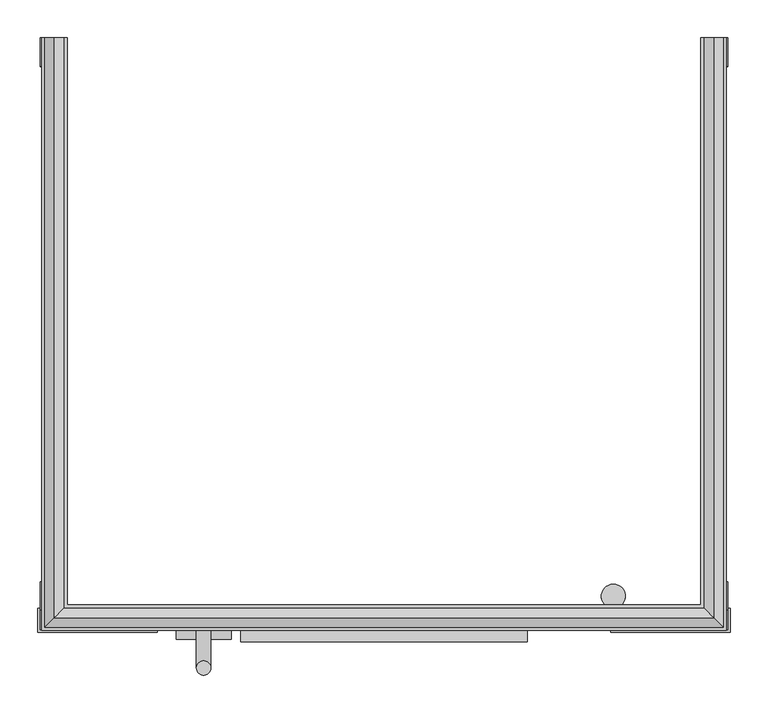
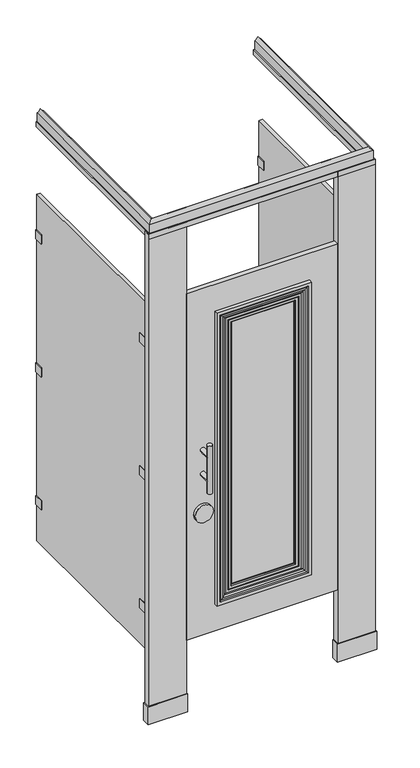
"""IFC4 building model written with IfcOpenShell, lengths in millimetres: proxy geometry, Toilet-Partition_Ironwood-Mfg_Compact-Laminate : Compact Laminate - Headrail Braced - Molding Door."""

from ifc_helpers import new_model, si_unit, point, frame, frame_2d, origin, origin_with_axes, place, context, project, spatial, polyline, circle_curve, ellipse_curve, trimmed, segment, composite_curve, outline, extrude, source, transform, mapped, element, save
from ifc_brep_helpers import plane_surface, cylinder_surface, revolved_surface, advanced_brep


def specialty_equipment_bc4b3a95(model_context):
    return source(origin(), model_context, "Body", "SolidModel", [
        extrude(outline(polyline([(701.675, -758.825), (701.675, -790.575), (542.925, -790.575), (542.925, -758.825), (701.675, -758.825)])), origin_with_axes(), (0.0, 0.0, 1.0), 76.2),
        extrude(outline(polyline([(698.5, -762.0), (698.5, -787.4), (546.1, -787.4), (546.1, -762.0), (698.5, -762.0)])), origin_with_axes(), (0.0, 0.0, 1.0), 2082.8),
        extrude(outline(polyline([(-219.075, -758.825), (-60.325, -758.825), (-60.325, -790.575), (-219.075, -790.575), (-219.075, -758.825)])), origin_with_axes(), (0.0, 0.0, 1.0), 76.2),
        extrude(outline(polyline([(-215.9, -762.0), (-63.5, -762.0), (-63.5, -787.4), (-215.9, -787.4), (-215.9, -762.0)])), origin_with_axes(), (0.0, 0.0, 1.0), 2082.8),
        extrude(outline(polyline([(546.1, -787.4), (-63.5, -787.4), (-63.5, -768.35), (546.1, -768.35), (546.1, -787.4)])), frame((0.0, 0.0, 304.8), z_axis=(0.0, 0.0, 1.0), x_axis=(1.0, 0.0, 0.0)), (0.0, 0.0, 1.0), 1473.2),
        extrude(outline(composite_curve([segment(trimmed(circle_curve(frame_2d((827.0875, 1.5875)), 36.5125), [point((827.0875, -34.925))], [point((827.0875, 38.1))], False, "CARTESIAN"), True, "CONTINUOUS"), segment(trimmed(circle_curve(frame_2d((827.0875, 1.5875)), 36.5125), [point((827.0875, 38.1))], [point((827.0875, -34.925))], False, "CARTESIAN"), True, "CONTINUOUS")], self_intersect=False)), frame((0.0, -800.1, 0.0), z_axis=(0.0, 1.0, 0.0), x_axis=(0.0, 0.0, 1.0)), (0.0, 0.0, 1.0), 12.7),
        advanced_brep(
        [(-7.9375, -787.4, 1092.2), (11.1125, -787.4, 1092.2), (-7.9375, -787.4, 990.6), (11.1125, -787.4, 990.6), (11.1125, -838.2, 1092.2), (-7.9375, -838.2, 1092.2), (11.1125, -838.2, 990.6), (-7.9375, -838.2, 990.6), (-7.9375, -838.2, 1143.0), (11.1125, -838.2, 1143.0), (-7.9375, -838.2, 939.8), (11.1125, -838.2, 939.8)],
        [
            (0, 1, circle_curve(frame((1.5875, -787.4, 1092.2), z_axis=(0.0, 1.0, 0.0), x_axis=(1.0, 0.0, 0.0)), 9.525)),
            (1, 0, circle_curve(frame((1.5875, -787.4, 1092.2), z_axis=(0.0, 1.0, 0.0), x_axis=(1.0, 0.0, 0.0)), 9.525)),
            (2, 3, circle_curve(frame((1.5875, -787.4, 990.6), z_axis=(0.0, 1.0, 0.0), x_axis=(1.0, 0.0, 0.0)), 9.525)),
            (3, 2, circle_curve(frame((1.5875, -787.4, 990.6), z_axis=(0.0, 1.0, 0.0), x_axis=(1.0, 0.0, 0.0)), 9.525)),
            (1, 4),
            (4, 5, ellipse_curve(frame((1.5875, -838.2, 1092.2), z_axis=(0.0, 0.7071067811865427, 0.7071067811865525), x_axis=(0.0, -0.7071067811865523, 0.7071067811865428)), 13.4703842, 9.525)),
            (5, 0),
            (5, 4, ellipse_curve(frame((1.5875, -838.2, 1092.2), z_axis=(0.0, 0.7071067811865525, -0.7071067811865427), x_axis=(0.0, -0.7071067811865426, -0.7071067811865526)), 13.4703842, 9.525)),
            (3, 6),
            (6, 7, ellipse_curve(frame((1.5875, -838.2, 990.6), z_axis=(0.0, 0.7071067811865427, 0.7071067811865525), x_axis=(0.0, -0.7071067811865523, 0.7071067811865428)), 13.4703842, 9.525)),
            (7, 2),
            (7, 6, ellipse_curve(frame((1.5875, -838.2, 990.6), z_axis=(0.0, 0.7071067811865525, -0.7071067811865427), x_axis=(0.0, -0.7071067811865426, -0.7071067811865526)), 13.4703842, 9.525)),
            (8, 9, circle_curve(frame((1.5875, -838.2, 1143.0), z_axis=(0.0, 0.0, 1.0), x_axis=(1.0, 0.0, 0.0)), 9.525)),
            (9, 8, circle_curve(frame((1.5875, -838.2, 1143.0), z_axis=(0.0, 0.0, 1.0), x_axis=(1.0, 0.0, 0.0)), 9.525)),
            (10, 11, circle_curve(frame((1.5875, -838.2, 939.8), z_axis=(0.0, 0.0, -1.0), x_axis=(1.0, 0.0, 0.0)), 9.525)),
            (11, 10, circle_curve(frame((1.5875, -838.2, 939.8), z_axis=(0.0, 0.0, -1.0), x_axis=(1.0, 0.0, 0.0)), 9.525)),
            (8, 5),
            (5, 7),
            (7, 10),
            (11, 6),
            (6, 4),
            (4, 9),
        ],
        [
            plane_surface(frame((11.1125, -787.4, 1092.2), z_axis=(0.0, 1.0, 0.0), x_axis=(0.0, 0.0, -1.0))),
            cylinder_surface(frame((1.5875, -787.4, 1092.2), z_axis=(0.0, -1.0, 0.0), x_axis=(1.0, 0.0, 0.0)), 9.525),
            cylinder_surface(frame((1.5875, -787.4, 990.6), z_axis=(0.0, -1.0, 0.0), x_axis=(1.0, 0.0, 0.0)), 9.525),
            plane_surface(frame((11.1125, -838.2, 1143.0), z_axis=(0.0, 0.0, 1.0), x_axis=(0.0, 1.0, 0.0))),
            plane_surface(frame((11.1125, -838.2, 939.8), z_axis=(0.0, 0.0, -1.0), x_axis=(0.0, -1.0, 0.0))),
            cylinder_surface(frame((1.5875, -838.2, 939.8), z_axis=(0.0, 0.0, 1.0), x_axis=(1.0, 0.0, 0.0)), 9.525),
        ],
        [
            (0, [[1, 2]]),
            (0, [[3, 4]]),
            (1, [[-2, 5, 6, 7]]),
            (1, [[-1, -7, 8, -5]]),
            (2, [[-4, 9, 10, 11]]),
            (2, [[-3, -11, 12, -9]]),
            (3, [[13, 14]]),
            (4, [[15, 16]]),
            (5, [[-13, 17, 18, 19, -16, 20, 21, 22]]),
            (5, [[-14, -22, -8, -17]]),
            (5, [[-15, -19, -10, -20]]),
            (5, [[-18, -6, -21, -12]]),
        ],
    ),
        advanced_brep(
        [(414.5195881, -788.6573117, 1646.4195881), (415.7768998, -787.4, 1647.6768998), (415.7768998, -787.4, 435.1231002), (414.5195881, -788.6573117, 436.3804119), (382.8493103, -787.3167663, 1614.7493103), (384.1898558, -788.6573117, 1616.0898558), (384.1898558, -788.6573117, 466.7101442), (382.8493103, -787.3167663, 468.0506897), (368.3, -792.3903203, 1600.2), (368.3, -787.3167663, 1600.2), (368.3, -787.3167663, 482.6), (368.3, -792.3903203, 482.6), (371.8761431, -795.8339988, 1603.7761431), (371.8761431, -795.8339988, 479.0238569), (383.7857899, -797.3276278, 1615.6857899), (381.5195942, -795.8339988, 1613.4195942), (381.5195942, -795.8339988, 469.3804058), (383.7857899, -797.3276278, 467.1142101), (399.1420677, -798.1943603, 1631.0420677), (393.8806616, -797.3276278, 1625.7806616), (393.8806616, -797.3276278, 457.0193384), (399.1420677, -798.1943603, 451.7579323), (406.241729, -800.7784257, 1638.141729), (406.241729, -800.7784257, 444.658271), (415.3065117, -800.469399, 1647.2065117), (415.3065117, -800.469399, 435.5934883), (419.1, -803.275, 1651.0), (419.1, -803.275, 431.8), (431.8, -787.4, 1663.7), (431.8, -803.275, 1663.7), (431.8, -803.275, 419.1), (431.8, -787.4, 419.1), (66.8231002, -787.4, 435.1231002), (68.0804119, -788.6573117, 436.3804119), (98.4101442, -788.6573117, 466.7101442), (99.7506897, -787.3167663, 468.0506897), (114.3, -787.3167663, 482.6), (114.3, -792.3903203, 482.6), (110.7238569, -795.8339988, 479.0238569), (101.0804058, -795.8339988, 469.3804058), (98.8142101, -797.3276278, 467.1142101), (88.7193384, -797.3276278, 457.0193384), (83.4579323, -798.1943603, 451.7579323), (76.358271, -800.7784257, 444.658271), (67.2934883, -800.469399, 435.5934883), (63.5, -803.275, 431.8), (50.8, -803.275, 419.1), (50.8, -787.4, 419.1), (66.8231002, -787.4, 1647.6768998), (68.0804119, -788.6573117, 1646.4195881), (98.4101442, -788.6573117, 1616.0898558), (99.7506897, -787.3167663, 1614.7493103), (114.3, -787.3167663, 1600.2), (114.3, -792.3903203, 1600.2), (110.7238569, -795.8339988, 1603.7761431), (101.0804058, -795.8339988, 1613.4195942), (98.8142101, -797.3276278, 1615.6857899), (88.7193384, -797.3276278, 1625.7806616), (83.4579323, -798.1943603, 1631.0420677), (76.358271, -800.7784257, 1638.141729), (67.2934883, -800.469399, 1647.2065117), (63.5, -803.275, 1651.0), (50.8, -803.275, 1663.7), (50.8, -787.4, 1663.7)],
        [
            (0, 1),
            (1, 2),
            (2, 3),
            (3, 0),
            (4, 5),
            (5, 6),
            (6, 7),
            (7, 4),
            (8, 9),
            (9, 10),
            (10, 11),
            (11, 8),
            (12, 8, ellipse_curve(frame((371.8761431, -792.2553079, 1603.7761431), z_axis=(0.7071067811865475, 0.0, -0.7071067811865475), x_axis=(0.7071067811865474, 0.0, 0.7071067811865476)), 5.0610331, 3.5786908)),
            (11, 13, ellipse_curve(frame((371.8761431, -792.2553079, 479.0238569), z_axis=(0.7071067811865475, 0.0, 0.7071067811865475), x_axis=(-0.7071067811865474, 0.0, 0.7071067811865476)), 5.0610331, 3.5786908)),
            (13, 12),
            (14, 15, ellipse_curve(frame((383.7857899, -794.8616303, 1615.6857899), z_axis=(0.7071067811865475, 0.0, -0.7071067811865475), x_axis=(0.7071067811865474, 0.0, 0.7071067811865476)), 3.487447, 2.4659974)),
            (15, 16),
            (16, 17, ellipse_curve(frame((383.7857899, -794.8616303, 467.1142101), z_axis=(0.7071067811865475, 0.0, 0.7071067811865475), x_axis=(-0.7071067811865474, 0.0, 0.7071067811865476)), 3.487447, 2.4659974)),
            (17, 14),
            (18, 19, ellipse_curve(frame((394.2058089, -811.7566197, 1626.1058089), z_axis=(-0.7071067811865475, 0.0, 0.7071067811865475), x_axis=(-0.7071067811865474, 0.0, -0.7071067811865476)), 20.4108564, 14.432655)),
            (19, 20),
            (20, 21, ellipse_curve(frame((394.2058089, -811.7566197, 456.6941911), z_axis=(-0.7071067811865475, 0.0, -0.7071067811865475), x_axis=(0.7071067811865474, 0.0, -0.7071067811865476)), 20.4108564, 14.432655)),
            (21, 18),
            (22, 18),
            (21, 23),
            (23, 22),
            (24, 22, ellipse_curve(frame((410.3907719, -789.379024, 1642.2907719), z_axis=(0.7071067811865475, 0.0, -0.7071067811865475), x_axis=(0.7071067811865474, 0.0, 0.7071067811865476)), 17.1558104, 12.1309899)),
            (23, 25, ellipse_curve(frame((410.3907719, -789.379024, 440.5092281), z_axis=(0.7071067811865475, 0.0, 0.7071067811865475), x_axis=(-0.7071067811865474, 0.0, 0.7071067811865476)), 17.1558104, 12.1309899)),
            (25, 24),
            (26, 24, ellipse_curve(frame((419.1, -799.307588, 1651.0), z_axis=(0.7071067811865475, 0.0, -0.7071067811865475), x_axis=(0.7071067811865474, 0.0, 0.7071067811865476)), 5.6107679, 3.967412)),
            (25, 27, ellipse_curve(frame((419.1, -799.307588, 431.8), z_axis=(0.7071067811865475, 0.0, 0.7071067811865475), x_axis=(-0.7071067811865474, 0.0, 0.7071067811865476)), 5.6107679, 3.967412)),
            (27, 26),
            (28, 29),
            (29, 30),
            (30, 31),
            (31, 28),
            (2, 32),
            (32, 33),
            (33, 3),
            (6, 34),
            (34, 35),
            (35, 7),
            (10, 36),
            (36, 37),
            (37, 11),
            (37, 38, ellipse_curve(frame((110.7238569, -792.2553079, 479.0238569), z_axis=(0.7071067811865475, 0.0, -0.7071067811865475), x_axis=(0.7071067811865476, 0.0, 0.7071067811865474)), 5.0610331, 3.5786908)),
            (38, 13),
            (16, 39),
            (39, 40, ellipse_curve(frame((98.8142101, -794.8616303, 467.1142101), z_axis=(0.7071067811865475, 0.0, -0.7071067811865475), x_axis=(0.7071067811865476, 0.0, 0.7071067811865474)), 3.487447, 2.4659974)),
            (40, 17),
            (20, 41),
            (41, 42, ellipse_curve(frame((88.3941911, -811.7566197, 456.6941911), z_axis=(-0.7071067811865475, 0.0, 0.7071067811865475), x_axis=(-0.7071067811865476, 0.0, -0.7071067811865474)), 20.4108564, 14.432655)),
            (42, 21),
            (42, 43),
            (43, 23),
            (43, 44, ellipse_curve(frame((72.2092281, -789.379024, 440.5092281), z_axis=(0.7071067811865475, 0.0, -0.7071067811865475), x_axis=(0.7071067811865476, 0.0, 0.7071067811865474)), 17.1558104, 12.1309899)),
            (44, 25),
            (44, 45, ellipse_curve(frame((63.5, -799.307588, 431.8), z_axis=(0.7071067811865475, 0.0, -0.7071067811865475), x_axis=(0.7071067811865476, 0.0, 0.7071067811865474)), 5.6107679, 3.967412)),
            (45, 27),
            (30, 46),
            (46, 47),
            (47, 31),
            (32, 48),
            (48, 49),
            (49, 33),
            (34, 50),
            (50, 51),
            (51, 35),
            (36, 52),
            (52, 53),
            (53, 37),
            (53, 54, ellipse_curve(frame((110.7238569, -792.2553079, 1603.7761431), z_axis=(-0.7071067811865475, 0.0, -0.7071067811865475), x_axis=(0.7071067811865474, 0.0, -0.7071067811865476)), 5.0610331, 3.5786908)),
            (54, 38),
            (39, 55),
            (55, 56, ellipse_curve(frame((98.8142101, -794.8616303, 1615.6857899), z_axis=(-0.7071067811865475, 0.0, -0.7071067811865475), x_axis=(0.7071067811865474, 0.0, -0.7071067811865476)), 3.487447, 2.4659974)),
            (56, 40),
            (41, 57),
            (57, 58, ellipse_curve(frame((88.3941911, -811.7566197, 1626.1058089), z_axis=(0.7071067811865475, 0.0, 0.7071067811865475), x_axis=(-0.7071067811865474, 0.0, 0.7071067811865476)), 20.4108564, 14.432655)),
            (58, 42),
            (58, 59),
            (59, 43),
            (59, 60, ellipse_curve(frame((72.2092281, -789.379024, 1642.2907719), z_axis=(-0.7071067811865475, 0.0, -0.7071067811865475), x_axis=(0.7071067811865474, 0.0, -0.7071067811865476)), 17.1558104, 12.1309899)),
            (60, 44),
            (60, 61, ellipse_curve(frame((63.5, -799.307588, 1651.0), z_axis=(-0.7071067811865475, 0.0, -0.7071067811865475), x_axis=(0.7071067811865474, 0.0, -0.7071067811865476)), 5.6107679, 3.967412)),
            (61, 45),
            (46, 62),
            (62, 63),
            (63, 47),
            (63, 28),
            (1, 48),
            (0, 49),
            (5, 50),
            (4, 51),
            (9, 52),
            (8, 53),
            (12, 54),
            (15, 55),
            (14, 56),
            (19, 57),
            (18, 58),
            (22, 59),
            (24, 60),
            (26, 61),
            (29, 62),
        ],
        [
            plane_surface(frame((415.7768998, -787.4, 1647.6768998), z_axis=(-0.7071067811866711, 0.7071067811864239, 0.0), x_axis=(0.0, 0.0, -1.0))),
            plane_surface(frame((384.1898558, -788.6573117, 1616.0898558), z_axis=(0.7071067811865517, 0.7071067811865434, 0.0), x_axis=(0.0, 0.0, -1.0))),
            plane_surface(frame((368.3, -787.3167663, 1600.2), z_axis=(-1.0, 0.0, 0.0), x_axis=(0.0, 0.0, -1.0))),
            cylinder_surface(frame((371.8761431, -792.2553079, 1663.7), z_axis=(0.0, 0.0, 1.0), x_axis=(1.0, 0.0, 0.0)), 3.5786908),
            cylinder_surface(frame((383.7857899, -794.8616303, 1663.7), z_axis=(0.0, 0.0, 1.0), x_axis=(1.0, 0.0, 0.0)), 2.4659974),
            revolved_surface(polyline([(408.63846390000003, -811.7566197, 442.2615361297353), (408.63846390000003, -811.7566197, 1640.5384638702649)]), (394.2058089, -811.7566197, 1663.7), (0.0, 0.0, -1.0)),
            plane_surface(frame((399.1420677, -798.1943603, 1631.0420677), z_axis=(-0.34202014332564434, -0.9396926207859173, 0.0), x_axis=(0.0, 0.0, -1.0))),
            cylinder_surface(frame((410.3907719, -789.379024, 1663.7), z_axis=(0.0, 0.0, 1.0), x_axis=(1.0, 0.0, 0.0)), 12.1309899),
            cylinder_surface(frame((419.1, -799.307588, 1663.7), z_axis=(0.0, 0.0, 1.0), x_axis=(1.0, 0.0, 0.0)), 3.967412),
            plane_surface(frame((431.8, -803.275, 1663.7), z_axis=(1.0, 0.0, 0.0), x_axis=(0.0, 0.0, -1.0))),
            plane_surface(frame((415.7768998, -787.4, 435.1231002), z_axis=(0.0, 0.7071067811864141, 0.7071067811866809), x_axis=(-1.0, 0.0, 0.0))),
            plane_surface(frame((384.1898558, -788.6573117, 466.7101442), z_axis=(0.0, 0.7071067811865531, -0.7071067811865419), x_axis=(-1.0, 0.0, 0.0))),
            plane_surface(frame((368.3, -787.3167663, 482.6), z_axis=(0.0, 0.0, 1.0), x_axis=(-1.0, 0.0, 0.0))),
            cylinder_surface(frame((431.8, -792.2553079, 479.0238569), z_axis=(1.0, 0.0, 0.0), x_axis=(0.0, 0.0, -1.0)), 3.5786908),
            cylinder_surface(frame((431.8, -794.8616303, 467.1142101), z_axis=(1.0, 0.0, 0.0), x_axis=(0.0, 0.0, -1.0)), 2.4659974),
            revolved_surface(polyline([(73.96153612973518, -811.7566197, 442.2615361), (408.63846387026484, -811.7566197, 442.2615361)]), (431.8, -811.7566197, 456.6941911), (-1.0, 0.0, 0.0)),
            plane_surface(frame((399.1420677, -798.1943603, 451.7579323), z_axis=(0.0, -0.9396926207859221, 0.34202014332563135), x_axis=(-1.0, 0.0, 0.0))),
            cylinder_surface(frame((431.8, -789.379024, 440.5092281), z_axis=(1.0, 0.0, 0.0), x_axis=(0.0, 0.0, -1.0)), 12.1309899),
            cylinder_surface(frame((431.8, -799.307588, 431.8), z_axis=(1.0, 0.0, 0.0), x_axis=(0.0, 0.0, -1.0)), 3.967412),
            plane_surface(frame((431.8, -803.275, 419.1), z_axis=(0.0, 0.0, -1.0), x_axis=(-1.0, 0.0, 0.0))),
            plane_surface(frame((66.8231002, -787.4, 435.1231002), z_axis=(0.7071067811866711, 0.7071067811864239, 0.0), x_axis=(0.0, 0.0, 1.0))),
            plane_surface(frame((98.4101442, -788.6573117, 466.7101442), z_axis=(-0.7071067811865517, 0.7071067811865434, 0.0), x_axis=(0.0, 0.0, 1.0))),
            plane_surface(frame((114.3, -787.3167663, 482.6), z_axis=(1.0, 0.0, 0.0), x_axis=(0.0, 0.0, 1.0))),
            cylinder_surface(frame((110.7238569, -792.2553079, 419.1), z_axis=(0.0, 0.0, -1.0), x_axis=(-1.0, 0.0, 0.0)), 3.5786908),
            cylinder_surface(frame((98.8142101, -794.8616303, 419.1), z_axis=(0.0, 0.0, -1.0), x_axis=(-1.0, 0.0, 0.0)), 2.4659974),
            revolved_surface(polyline([(73.9615361, -811.7566197, 1640.5384638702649), (73.9615361, -811.7566197, 442.2615361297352)]), (88.3941911, -811.7566197, 419.1), (0.0, 0.0, 1.0)),
            plane_surface(frame((83.4579323, -798.1943603, 451.7579323), z_axis=(0.34202014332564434, -0.9396926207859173, 0.0), x_axis=(0.0, 0.0, 1.0))),
            cylinder_surface(frame((72.2092281, -789.379024, 419.1), z_axis=(0.0, 0.0, -1.0), x_axis=(-1.0, 0.0, 0.0)), 12.1309899),
            cylinder_surface(frame((63.5, -799.307588, 419.1), z_axis=(0.0, 0.0, -1.0), x_axis=(-1.0, 0.0, 0.0)), 3.967412),
            plane_surface(frame((50.8, -803.275, 419.1), z_axis=(-1.0, 0.0, 0.0), x_axis=(0.0, 0.0, 1.0))),
            plane_surface(frame((50.8, -787.4, 1663.7), z_axis=(0.0, 1.0, 0.0), x_axis=(1.0, 0.0, 0.0))),
            plane_surface(frame((66.8231002, -787.4, 1647.6768998), z_axis=(0.0, 0.7071067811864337, -0.7071067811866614), x_axis=(1.0, 0.0, 0.0))),
            plane_surface(frame((68.0804119, -788.6573117, 1646.4195881), z_axis=(0.0, 1.0, 0.0), x_axis=(1.0, 0.0, 0.0))),
            plane_surface(frame((98.4101442, -788.6573117, 1616.0898558), z_axis=(0.0, 0.7071067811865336, 0.7071067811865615), x_axis=(1.0, 0.0, 0.0))),
            plane_surface(frame((99.7506897, -787.3167663, 1614.7493103), z_axis=(0.0, 1.0, 0.0), x_axis=(1.0, 0.0, 0.0))),
            plane_surface(frame((114.3, -787.3167663, 1600.2), z_axis=(0.0, 0.0, -1.0), x_axis=(1.0, 0.0, 0.0))),
            cylinder_surface(frame((50.8, -792.2553079, 1603.7761431), z_axis=(-1.0, 0.0, 0.0), x_axis=(0.0, 0.0, 1.0)), 3.5786908),
            plane_surface(frame((110.7238569, -795.8339988, 1603.7761431), z_axis=(0.0, -1.0, 0.0), x_axis=(1.0, 0.0, 0.0))),
            cylinder_surface(frame((50.8, -794.8616303, 1615.6857899), z_axis=(-1.0, 0.0, 0.0), x_axis=(0.0, 0.0, 1.0)), 2.4659974),
            plane_surface(frame((98.8142101, -797.3276278, 1615.6857899), z_axis=(0.0, -1.0, 0.0), x_axis=(1.0, 0.0, 0.0))),
            revolved_surface(polyline([(408.63846387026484, -811.7566197, 1640.5384639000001), (73.96153612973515, -811.7566197, 1640.5384639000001)]), (50.8, -811.7566197, 1626.1058089), (1.0, 0.0, 0.0)),
            plane_surface(frame((83.4579323, -798.1943603, 1631.0420677), z_axis=(0.0, -0.9396926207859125, -0.34202014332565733), x_axis=(1.0, 0.0, 0.0))),
            cylinder_surface(frame((50.8, -789.379024, 1642.2907719), z_axis=(-1.0, 0.0, 0.0), x_axis=(0.0, 0.0, 1.0)), 12.1309899),
            cylinder_surface(frame((50.8, -799.307588, 1651.0), z_axis=(-1.0, 0.0, 0.0), x_axis=(0.0, 0.0, 1.0)), 3.967412),
            plane_surface(frame((63.5, -803.275, 1651.0), z_axis=(0.0, -1.0, 0.0), x_axis=(1.0, 0.0, 0.0))),
            plane_surface(frame((50.8, -803.275, 1663.7), z_axis=(0.0, 0.0, 1.0), x_axis=(1.0, 0.0, 0.0))),
        ],
        [
            (0, [[1, 2, 3, 4]]),
            (1, [[5, 6, 7, 8]]),
            (2, [[9, 10, 11, 12]]),
            (3, [[13, -12, 14, 15]]),
            (4, [[16, 17, 18, 19]]),
            (5, [[20, 21, 22, 23]]),
            (6, [[24, -23, 25, 26]]),
            (7, [[27, -26, 28, 29]]),
            (8, [[30, -29, 31, 32]]),
            (9, [[33, 34, 35, 36]]),
            (10, [[-3, 37, 38, 39]]),
            (11, [[-7, 40, 41, 42]]),
            (12, [[-11, 43, 44, 45]]),
            (13, [[-14, -45, 46, 47]]),
            (14, [[-18, 48, 49, 50]]),
            (15, [[-22, 51, 52, 53]]),
            (16, [[-25, -53, 54, 55]]),
            (17, [[-28, -55, 56, 57]]),
            (18, [[-31, -57, 58, 59]]),
            (19, [[-35, 60, 61, 62]]),
            (20, [[-38, 63, 64, 65]]),
            (21, [[-41, 66, 67, 68]]),
            (22, [[-44, 69, 70, 71]]),
            (23, [[-46, -71, 72, 73]]),
            (24, [[-49, 74, 75, 76]]),
            (25, [[-52, 77, 78, 79]]),
            (26, [[-54, -79, 80, 81]]),
            (27, [[-56, -81, 82, 83]]),
            (28, [[-58, -83, 84, 85]]),
            (29, [[-61, 86, 87, 88]]),
            (30, [[-62, -88, 89, -36], [90, -63, -37, -2]]),
            (31, [[-64, -90, -1, 91]]),
            (32, [[-39, -65, -91, -4], [92, -66, -40, -6]]),
            (33, [[-67, -92, -5, 93]]),
            (34, [[-42, -68, -93, -8], [94, -69, -43, -10]]),
            (35, [[-70, -94, -9, 95]]),
            (36, [[-72, -95, -13, 96]]),
            (37, [[97, -74, -48, -17], [-47, -73, -96, -15]]),
            (38, [[-75, -97, -16, 98]]),
            (39, [[99, -77, -51, -21], [-50, -76, -98, -19]]),
            (40, [[-78, -99, -20, 100]]),
            (41, [[-80, -100, -24, 101]]),
            (42, [[-82, -101, -27, 102]]),
            (43, [[-84, -102, -30, 103]]),
            (44, [[104, -86, -60, -34], [-59, -85, -103, -32]]),
            (45, [[-87, -104, -33, -89]]),
        ],
    ),
        extrude(outline(composite_curve([segment(polyline([(581.3737081, -762.0), (505.1737081, -762.0), (505.1737081, -758.825), (533.7487081, -758.825), (533.7487081, -752.9581331)]), True, "CONTINUOUS"), segment(trimmed(circle_curve(frame_2d((546.1, -742.8902139)), 15.9347861), [point((533.7487081, -752.9581331))], [point((558.4512919, -752.9581331))], False, "CARTESIAN"), True, "CONTINUOUS"), segment(polyline([(558.4512919, -752.9581331), (558.4512919, -758.825), (581.3737081, -758.825), (581.3737081, -762.0)]), True, "CONTINUOUS")], self_intersect=False)), frame((0.0, 0.0, 1574.8), z_axis=(0.0, 0.0, 1.0), x_axis=(1.0, 0.0, 0.0)), (0.0, 0.0, 1.0), 63.5),
        extrude(outline(composite_curve([segment(polyline([(581.3737081, -762.0), (505.1737081, -762.0), (505.1737081, -758.825), (533.7487081, -758.825), (533.7487081, -752.9581331)]), True, "CONTINUOUS"), segment(trimmed(circle_curve(frame_2d((546.1, -742.8902139)), 15.9347861), [point((533.7487081, -752.9581331))], [point((558.4512919, -752.9581331))], False, "CARTESIAN"), True, "CONTINUOUS"), segment(polyline([(558.4512919, -752.9581331), (558.4512919, -758.825), (581.3737081, -758.825), (581.3737081, -762.0)]), True, "CONTINUOUS")], self_intersect=False)), frame((0.0, 0.0, 1009.6500001), z_axis=(0.0, 0.0, 1.0), x_axis=(1.0, 0.0, 0.0)), (0.0, 0.0, 1.0), 63.5),
        extrude(outline(composite_curve([segment(polyline([(581.3737081, -762.0), (505.1737081, -762.0), (505.1737081, -758.825), (533.7487081, -758.825), (533.7487081, -752.9581331)]), True, "CONTINUOUS"), segment(trimmed(circle_curve(frame_2d((546.1, -742.8902139)), 15.9347861), [point((533.7487081, -752.9581331))], [point((558.4512919, -752.9581331))], False, "CARTESIAN"), True, "CONTINUOUS"), segment(polyline([(558.4512919, -752.9581331), (558.4512919, -758.825), (581.3737081, -758.825), (581.3737081, -762.0)]), True, "CONTINUOUS")], self_intersect=False)), frame((0.0, 0.0, 444.5), z_axis=(0.0, 0.0, 1.0), x_axis=(1.0, 0.0, 0.0)), (0.0, 0.0, 1.0), 63.5),
        extrude(outline(polyline([(682.498, -723.9), (682.498, -758.825), (695.198, -758.825), (695.198, -723.9), (698.373, -723.9), (698.373, -762.0), (679.323, -762.0), (679.323, -723.9), (682.498, -723.9)])), frame((0.0, 0.0, 1587.8188137), z_axis=(0.0, 0.0, 1.0), x_axis=(1.0, 0.0, 0.0)), (0.0, 0.0, 1.0), 38.1),
        extrude(outline(polyline([(682.498, -38.1), (679.323, -38.1), (679.323, 0.0), (698.373, 0.0), (698.373, -38.1), (695.198, -38.1), (695.198, -3.175), (682.498, -3.175), (682.498, -38.1)])), frame((0.0, 0.0, 1587.8188137), z_axis=(0.0, 0.0, 1.0), x_axis=(1.0, 0.0, 0.0)), (0.0, 0.0, 1.0), 38.1),
        extrude(outline(polyline([(682.498, -723.9), (682.498, -758.825), (695.198, -758.825), (695.198, -723.9), (698.373, -723.9), (698.373, -762.0), (679.323, -762.0), (679.323, -723.9), (682.498, -723.9)])), frame((0.0, 0.0, 1022.35), z_axis=(0.0, 0.0, 1.0), x_axis=(1.0, 0.0, 0.0)), (0.0, 0.0, 1.0), 38.1),
        extrude(outline(polyline([(682.498, -38.1), (679.323, -38.1), (679.323, 0.0), (698.373, 0.0), (698.373, -38.1), (695.198, -38.1), (695.198, -3.175), (682.498, -3.175), (682.498, -38.1)])), frame((0.0, 0.0, 1022.35), z_axis=(0.0, 0.0, 1.0), x_axis=(1.0, 0.0, 0.0)), (0.0, 0.0, 1.0), 38.1),
        extrude(outline(polyline([(682.498, -723.9), (682.498, -758.825), (695.198, -758.825), (695.198, -723.9), (698.373, -723.9), (698.373, -762.0), (679.323, -762.0), (679.323, -723.9), (682.498, -723.9)])), frame((0.0, 0.0, 457.2), z_axis=(0.0, 0.0, 1.0), x_axis=(1.0, 0.0, 0.0)), (0.0, 0.0, 1.0), 38.1),
        extrude(outline(polyline([(682.498, -38.1), (679.323, -38.1), (679.323, 0.0), (698.373, 0.0), (698.373, -38.1), (695.198, -38.1), (695.198, -3.175), (682.498, -3.175), (682.498, -38.1)])), frame((0.0, 0.0, 457.2), z_axis=(0.0, 0.0, 1.0), x_axis=(1.0, 0.0, 0.0)), (0.0, 0.0, 1.0), 38.1),
        extrude(outline(polyline([(-212.598, -723.9), (-212.598, -758.825), (-199.898, -758.825), (-199.898, -723.9), (-196.723, -723.9), (-196.723, -762.0), (-215.773, -762.0), (-215.773, -723.9), (-212.598, -723.9)])), frame((0.0, 0.0, 1587.8188137), z_axis=(0.0, 0.0, 1.0), x_axis=(1.0, 0.0, 0.0)), (0.0, 0.0, 1.0), 38.1),
        extrude(outline(polyline([(-212.598, -38.1), (-215.773, -38.1), (-215.773, 0.0), (-196.723, 0.0), (-196.723, -38.1), (-199.898, -38.1), (-199.898, -3.175), (-212.598, -3.175), (-212.598, -38.1)])), frame((0.0, 0.0, 1587.8188137), z_axis=(0.0, 0.0, 1.0), x_axis=(1.0, 0.0, 0.0)), (0.0, 0.0, 1.0), 38.1),
        extrude(outline(polyline([(-212.598, -723.9), (-212.598, -758.825), (-199.898, -758.825), (-199.898, -723.9), (-196.723, -723.9), (-196.723, -762.0), (-215.773, -762.0), (-215.773, -723.9), (-212.598, -723.9)])), frame((0.0, 0.0, 1022.35), z_axis=(0.0, 0.0, 1.0), x_axis=(1.0, 0.0, 0.0)), (0.0, 0.0, 1.0), 38.1),
        extrude(outline(polyline([(-212.598, -38.1), (-215.773, -38.1), (-215.773, 0.0), (-196.723, 0.0), (-196.723, -38.1), (-199.898, -38.1), (-199.898, -3.175), (-212.598, -3.175), (-212.598, -38.1)])), frame((0.0, 0.0, 1022.35), z_axis=(0.0, 0.0, 1.0), x_axis=(1.0, 0.0, 0.0)), (0.0, 0.0, 1.0), 38.1),
        extrude(outline(polyline([(-212.598, -723.9), (-212.598, -758.825), (-199.898, -758.825), (-199.898, -723.9), (-196.723, -723.9), (-196.723, -762.0), (-215.773, -762.0), (-215.773, -723.9), (-212.598, -723.9)])), frame((0.0, 0.0, 457.2), z_axis=(0.0, 0.0, 1.0), x_axis=(1.0, 0.0, 0.0)), (0.0, 0.0, 1.0), 38.1),
        extrude(outline(polyline([(-212.598, -38.1), (-215.773, -38.1), (-215.773, 0.0), (-196.723, 0.0), (-196.723, -38.1), (-199.898, -38.1), (-199.898, -3.175), (-212.598, -3.175), (-212.598, -38.1)])), frame((0.0, 0.0, 457.2), z_axis=(0.0, 0.0, 1.0), x_axis=(1.0, 0.0, 0.0)), (0.0, 0.0, 1.0), 38.1),
        extrude(outline(polyline([(-199.898, -3.175), (-199.898, -758.825), (-212.598, -758.825), (-212.598, -3.175), (-199.898, -3.175)])), frame((0.0, 0.0, 304.8), z_axis=(0.0, 0.0, 1.0), x_axis=(1.0, 0.0, 0.0)), (0.0, 0.0, 1.0), 1473.2),
        extrude(outline(polyline([(695.198, -3.175), (695.198, -758.825), (682.498, -758.825), (682.498, -3.175), (695.198, -3.175)])), frame((0.0, 0.0, 304.8), z_axis=(0.0, 0.0, 1.0), x_axis=(1.0, 0.0, 0.0)), (0.0, 0.0, 1.0), 1473.2),
        advanced_brep(
        [(663.448, 0.0, 2063.75), (662.257375, 0.0, 2063.75), (662.257375, 0.0, 2083.990625), (666.623, 0.0, 2083.990625), (666.623, 0.0, 2120.9), (679.323, 0.0, 2133.6), (692.023, 0.0, 2120.9), (692.023, 0.0, 2083.990625), (696.388625, 0.0, 2083.990625), (696.388625, 0.0, 2063.75), (695.198, 0.0, 2063.75), (695.198, 0.0, 2082.8), (663.448, 0.0, 2082.8), (667.813625, 0.0, 2119.709375), (667.813625, 0.0, 2083.990625), (690.832375, 0.0, 2083.990625), (690.832375, 0.0, 2119.709375), (679.323, 0.0, 2131.21875), (663.448, -755.65, 2063.75), (663.448, -755.65, 2082.8), (-180.848, -755.65, 2082.8), (-180.848, -755.65, 2063.75), (695.198, -787.4, 2082.8), (695.198, -787.4, 2063.75), (-212.598, -787.4, 2063.75), (-212.598, -787.4, 2082.8), (696.388625, -788.590625, 2063.75), (696.388625, -788.590625, 2083.990625), (-213.788625, -788.590625, 2083.990625), (-213.788625, -788.590625, 2063.75), (692.023, -784.225, 2083.990625), (692.023, -784.225, 2120.9), (-209.423, -784.225, 2120.9), (-209.423, -784.225, 2083.990625), (679.323, -771.525, 2133.6), (-196.723, -771.525, 2133.6), (666.623, -758.825, 2120.9), (-184.023, -758.825, 2120.9), (666.623, -758.825, 2083.990625), (-184.023, -758.825, 2083.990625), (662.257375, -754.459375, 2083.990625), (662.257375, -754.459375, 2063.75), (-179.657375, -754.459375, 2063.75), (-179.657375, -754.459375, 2083.990625), (667.813625, -760.015625, 2119.709375), (679.323, -771.525, 2131.21875), (-196.723, -771.525, 2131.21875), (-185.213625, -760.015625, 2119.709375), (690.832375, -783.034375, 2119.709375), (-208.232375, -783.034375, 2119.709375), (690.832375, -783.034375, 2083.990625), (-208.232375, -783.034375, 2083.990625), (667.813625, -760.015625, 2083.990625), (-185.213625, -760.015625, 2083.990625), (-180.848, 0.0, 2063.75), (-180.848, 0.0, 2082.8), (-212.598, 0.0, 2082.8), (-212.598, 0.0, 2063.75), (-213.788625, 0.0, 2063.75), (-213.788625, 0.0, 2083.990625), (-209.423, 0.0, 2083.990625), (-209.423, 0.0, 2120.9), (-196.723, 0.0, 2133.6), (-184.023, 0.0, 2120.9), (-184.023, 0.0, 2083.990625), (-179.657375, 0.0, 2083.990625), (-179.657375, 0.0, 2063.75), (-185.213625, 0.0, 2119.709375), (-196.723, 0.0, 2131.21875), (-208.232375, 0.0, 2119.709375), (-208.232375, 0.0, 2083.990625), (-185.213625, 0.0, 2083.990625)],
        [
            (0, 1),
            (1, 2),
            (2, 3),
            (3, 4),
            (4, 5, circle_curve(frame((649.9091809, 0.0, 2150.3138191), z_axis=(0.0, -1.0, 0.0), x_axis=(1.0, 0.0, 0.0)), 33.8308218)),
            (5, 6, circle_curve(frame((708.7368191, 0.0, 2150.3138191), z_axis=(0.0, -1.0, 0.0), x_axis=(1.0, 0.0, 0.0)), 33.8308218)),
            (6, 7),
            (7, 8),
            (8, 9),
            (9, 10),
            (10, 11),
            (11, 12),
            (12, 0),
            (13, 14),
            (14, 15),
            (15, 16),
            (16, 17, circle_curve(frame((709.9824574, 0.0, 2150.3688324), z_axis=(0.0, 1.0, 0.0), x_axis=(1.0, 0.0, 0.0)), 36.1486927)),
            (17, 13, circle_curve(frame((648.6635426, 0.0, 2150.3688324), z_axis=(0.0, 1.0, 0.0), x_axis=(1.0, 0.0, 0.0)), 36.1486927)),
            (18, 19),
            (19, 20),
            (20, 21),
            (21, 18),
            (22, 23),
            (23, 24),
            (24, 25),
            (25, 22),
            (26, 27),
            (27, 28),
            (28, 29),
            (29, 26),
            (30, 31),
            (31, 32),
            (32, 33),
            (33, 30),
            (31, 34, ellipse_curve(frame((708.7368191, -800.9388191, 2150.3138191), z_axis=(0.7071067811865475, 0.7071067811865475, 0.0), x_axis=(-0.7071067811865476, 0.7071067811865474, 0.0)), 47.844007, 33.8308218)),
            (34, 35),
            (35, 32, ellipse_curve(frame((-226.1368191, -800.9388191, 2150.3138191), z_axis=(-0.7071067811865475, 0.7071067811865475, 0.0), x_axis=(-0.7071067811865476, -0.7071067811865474, 0.0)), 47.844007, 33.8308218)),
            (34, 36, ellipse_curve(frame((649.9091809, -742.1111809, 2150.3138191), z_axis=(0.7071067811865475, 0.7071067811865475, 0.0), x_axis=(-0.7071067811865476, 0.7071067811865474, 0.0)), 47.844007, 33.8308218)),
            (36, 37),
            (37, 35, ellipse_curve(frame((-167.3091809, -742.1111809, 2150.3138191), z_axis=(-0.7071067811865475, 0.7071067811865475, 0.0), x_axis=(-0.7071067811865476, -0.7071067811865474, 0.0)), 47.844007, 33.8308218)),
            (36, 38),
            (38, 39),
            (39, 37),
            (40, 41),
            (41, 42),
            (42, 43),
            (43, 40),
            (44, 45, ellipse_curve(frame((648.6635426, -740.8655426, 2150.3688324), z_axis=(-0.7071067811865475, -0.7071067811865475, 0.0), x_axis=(0.7071067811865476, -0.7071067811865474, 0.0)), 51.1219715, 36.1486927)),
            (45, 46),
            (46, 47, ellipse_curve(frame((-166.0635426, -740.8655426, 2150.3688324), z_axis=(0.7071067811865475, -0.7071067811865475, 0.0), x_axis=(0.7071067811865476, 0.7071067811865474, 0.0)), 51.1219715, 36.1486927)),
            (47, 44),
            (45, 48, ellipse_curve(frame((709.9824574, -802.1844574, 2150.3688324), z_axis=(-0.7071067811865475, -0.7071067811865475, 0.0), x_axis=(0.7071067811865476, -0.7071067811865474, 0.0)), 51.1219715, 36.1486927)),
            (48, 49),
            (49, 46, ellipse_curve(frame((-227.3824574, -802.1844574, 2150.3688324), z_axis=(0.7071067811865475, -0.7071067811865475, 0.0), x_axis=(0.7071067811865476, 0.7071067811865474, 0.0)), 51.1219715, 36.1486927)),
            (48, 50),
            (50, 51),
            (51, 49),
            (52, 44),
            (47, 53),
            (53, 52),
            (54, 55),
            (55, 56),
            (56, 57),
            (57, 58),
            (58, 59),
            (59, 60),
            (60, 61),
            (61, 62, circle_curve(frame((-226.1368191, 0.0, 2150.3138191), z_axis=(0.0, -1.0, 0.0), x_axis=(-1.0, 0.0, 0.0)), 33.8308218)),
            (62, 63, circle_curve(frame((-167.3091809, 0.0, 2150.3138191), z_axis=(0.0, -1.0, 0.0), x_axis=(-1.0, 0.0, 0.0)), 33.8308218)),
            (63, 64),
            (64, 65),
            (65, 66),
            (66, 54),
            (67, 68, circle_curve(frame((-166.0635426, 0.0, 2150.3688324), z_axis=(0.0, 1.0, 0.0), x_axis=(-1.0, 0.0, 0.0)), 36.1486927)),
            (68, 69, circle_curve(frame((-227.3824574, 0.0, 2150.3688324), z_axis=(0.0, 1.0, 0.0), x_axis=(-1.0, 0.0, 0.0)), 36.1486927)),
            (69, 70),
            (70, 71),
            (71, 67),
            (20, 55),
            (54, 21),
            (24, 57),
            (56, 25),
            (28, 59),
            (58, 29),
            (32, 61),
            (60, 33),
            (35, 62),
            (37, 63),
            (39, 64),
            (42, 66),
            (65, 43),
            (46, 68),
            (67, 47),
            (49, 69),
            (51, 70),
            (71, 53),
            (0, 18),
            (41, 1),
            (40, 2),
            (38, 3),
            (36, 4),
            (34, 5),
            (31, 6),
            (30, 7),
            (27, 8),
            (26, 9),
            (23, 10),
            (22, 11),
            (19, 12),
            (13, 44),
            (52, 14),
            (50, 15),
            (48, 16),
            (45, 17),
        ],
        [
            plane_surface(frame((695.198, 0.0, 0.0), z_axis=(0.0, 1.0, 0.0), x_axis=(0.0, 0.0, 1.0))),
            plane_surface(frame((663.448, -755.65, 2082.8), z_axis=(0.0, -1.0, 0.0), x_axis=(-1.0, 0.0, 0.0))),
            plane_surface(frame((695.198, -787.4, 2063.75), z_axis=(0.0, 1.0, 0.0), x_axis=(-1.0, 0.0, 0.0))),
            plane_surface(frame((696.388625, -788.590625, 2083.990625), z_axis=(0.0, -1.0, 0.0), x_axis=(-1.0, 0.0, 0.0))),
            plane_surface(frame((692.023, -784.225, 2120.9), z_axis=(0.0, -1.0, 0.0), x_axis=(-1.0, 0.0, 0.0))),
            revolved_surface(polyline([(-259.9676408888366, -834.7696409, 2150.3138191), (742.5676408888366, -834.7696409, 2150.3138191)]), (695.198, -800.9388191, 2150.3138191), (-1.0, 0.0, 0.0)),
            revolved_surface(polyline([(-201.1400026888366, -775.9420027, 2150.3138191), (683.7400026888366, -775.9420027, 2150.3138191)]), (695.198, -742.1111809, 2150.3138191), (-1.0, 0.0, 0.0)),
            plane_surface(frame((666.623, -758.825, 2083.990625), z_axis=(0.0, 1.0, 0.0), x_axis=(-1.0, 0.0, 0.0))),
            plane_surface(frame((662.257375, -754.459375, 2063.75), z_axis=(0.0, 1.0, 0.0), x_axis=(-1.0, 0.0, 0.0))),
            cylinder_surface(frame((695.198, -740.8655426, 2150.3688324), z_axis=(1.0, 0.0, 0.0), x_axis=(0.0, -1.0, 0.0)), 36.1486927),
            cylinder_surface(frame((695.198, -802.1844574, 2150.3688324), z_axis=(1.0, 0.0, 0.0), x_axis=(0.0, -1.0, 0.0)), 36.1486927),
            plane_surface(frame((690.832375, -783.034375, 2083.990625), z_axis=(0.0, 1.0, 0.0), x_axis=(-1.0, 0.0, 0.0))),
            plane_surface(frame((667.813625, -760.015625, 2119.709375), z_axis=(0.0, -1.0, 0.0), x_axis=(-1.0, 0.0, 0.0))),
            plane_surface(frame((-212.598, 0.0, 0.0), z_axis=(0.0, 1.0, 0.0), x_axis=(0.0, 0.0, 1.0))),
            plane_surface(frame((-180.848, -755.65, 2082.8), z_axis=(-1.0, 0.0, 0.0), x_axis=(0.0, 1.0, 0.0))),
            plane_surface(frame((-212.598, -787.4, 2063.75), z_axis=(1.0, 0.0, 0.0), x_axis=(0.0, 1.0, 0.0))),
            plane_surface(frame((-213.788625, -788.590625, 2083.990625), z_axis=(-1.0, 0.0, 0.0), x_axis=(0.0, 1.0, 0.0))),
            plane_surface(frame((-209.423, -784.225, 2120.9), z_axis=(-1.0, 0.0, 0.0), x_axis=(0.0, 1.0, 0.0))),
            revolved_surface(polyline([(-259.9676409, 0.0, 2150.3138191), (-259.9676409, -834.7696408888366, 2150.3138191)]), (-226.1368191, -787.4, 2150.3138191), (0.0, 1.0, 0.0)),
            revolved_surface(polyline([(-201.1400027, 0.0, 2150.3138191), (-201.1400027, -775.9420026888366, 2150.3138191)]), (-167.3091809, -787.4, 2150.3138191), (0.0, 1.0, 0.0)),
            plane_surface(frame((-184.023, -758.825, 2083.990625), z_axis=(1.0, 0.0, 0.0), x_axis=(0.0, 1.0, 0.0))),
            plane_surface(frame((-179.657375, -754.459375, 2063.75), z_axis=(1.0, 0.0, 0.0), x_axis=(0.0, 1.0, 0.0))),
            cylinder_surface(frame((-166.0635426, -787.4, 2150.3688324), z_axis=(0.0, -1.0, 0.0), x_axis=(-1.0, 0.0, 0.0)), 36.1486927),
            cylinder_surface(frame((-227.3824574, -787.4, 2150.3688324), z_axis=(0.0, -1.0, 0.0), x_axis=(-1.0, 0.0, 0.0)), 36.1486927),
            plane_surface(frame((-208.232375, -783.034375, 2083.990625), z_axis=(1.0, 0.0, 0.0), x_axis=(0.0, 1.0, 0.0))),
            plane_surface(frame((-185.213625, -760.015625, 2119.709375), z_axis=(-1.0, 0.0, 0.0), x_axis=(0.0, 1.0, 0.0))),
            plane_surface(frame((663.448, 0.0, 2063.75), z_axis=(0.0, 0.0, -1.0), x_axis=(0.0, -1.0, 0.0))),
            plane_surface(frame((662.257375, 0.0, 2063.75), z_axis=(-1.0, 0.0, 0.0), x_axis=(0.0, -1.0, 0.0))),
            plane_surface(frame((662.257375, 0.0, 2083.990625), z_axis=(0.0, 0.0, 1.0), x_axis=(0.0, -1.0, 0.0))),
            plane_surface(frame((666.623, 0.0, 2083.990625), z_axis=(-1.0, 0.0, 0.0), x_axis=(0.0, -1.0, 0.0))),
            revolved_surface(polyline([(683.7400027, -775.9420026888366, 2150.3138191), (683.7400027, 0.0, 2150.3138191)]), (649.9091809, 0.0, 2150.3138191), (0.0, -1.0, 0.0)),
            revolved_surface(polyline([(742.5676409, -834.7696408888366, 2150.3138191), (742.5676409, 0.0, 2150.3138191)]), (708.7368191, 0.0, 2150.3138191), (0.0, -1.0, 0.0)),
            plane_surface(frame((692.023, 0.0, 2120.9), z_axis=(1.0, 0.0, 0.0), x_axis=(0.0, -1.0, 0.0))),
            plane_surface(frame((692.023, 0.0, 2083.990625), z_axis=(0.0, 0.0, 1.0), x_axis=(0.0, -1.0, 0.0))),
            plane_surface(frame((696.388625, 0.0, 2083.990625), z_axis=(1.0, 0.0, 0.0), x_axis=(0.0, -1.0, 0.0))),
            plane_surface(frame((696.388625, 0.0, 2063.75), z_axis=(0.0, 0.0, -1.0), x_axis=(0.0, -1.0, 0.0))),
            plane_surface(frame((695.198, 0.0, 2063.75), z_axis=(-1.0, 0.0, 0.0), x_axis=(0.0, -1.0, 0.0))),
            plane_surface(frame((695.198, 0.0, 2082.8), z_axis=(0.0, 0.0, -1.0), x_axis=(0.0, -1.0, 0.0))),
            plane_surface(frame((663.448, 0.0, 2082.8), z_axis=(1.0, 0.0, 0.0), x_axis=(0.0, -1.0, 0.0))),
            plane_surface(frame((667.813625, 0.0, 2119.709375), z_axis=(1.0, 0.0, 0.0), x_axis=(0.0, -1.0, 0.0))),
            plane_surface(frame((667.813625, 0.0, 2083.990625), z_axis=(0.0, 0.0, 1.0), x_axis=(0.0, -1.0, 0.0))),
            plane_surface(frame((690.832375, 0.0, 2083.990625), z_axis=(-1.0, 0.0, 0.0), x_axis=(0.0, -1.0, 0.0))),
            cylinder_surface(frame((709.9824574, 0.0, 2150.3688324), z_axis=(0.0, 1.0, 0.0), x_axis=(1.0, 0.0, 0.0)), 36.1486927),
            cylinder_surface(frame((648.6635426, 0.0, 2150.3688324), z_axis=(0.0, 1.0, 0.0), x_axis=(1.0, 0.0, 0.0)), 36.1486927),
        ],
        [
            (0, [[1, 2, 3, 4, 5, 6, 7, 8, 9, 10, 11, 12, 13], [14, 15, 16, 17, 18]]),
            (1, [[19, 20, 21, 22]]),
            (2, [[23, 24, 25, 26]]),
            (3, [[27, 28, 29, 30]]),
            (4, [[31, 32, 33, 34]]),
            (5, [[35, 36, 37, -32]]),
            (6, [[38, 39, 40, -36]]),
            (7, [[41, 42, 43, -39]]),
            (8, [[44, 45, 46, 47]]),
            (9, [[48, 49, 50, 51]]),
            (10, [[52, 53, 54, -49]]),
            (11, [[55, 56, 57, -53]]),
            (12, [[58, -51, 59, 60]]),
            (13, [[61, 62, 63, 64, 65, 66, 67, 68, 69, 70, 71, 72, 73], [74, 75, 76, 77, 78]]),
            (14, [[-21, 79, -61, 80]]),
            (15, [[-25, 81, -63, 82]]),
            (16, [[-29, 83, -65, 84]]),
            (17, [[-33, 85, -67, 86]]),
            (18, [[-37, 87, -68, -85]]),
            (19, [[-40, 88, -69, -87]]),
            (20, [[-43, 89, -70, -88]]),
            (21, [[-46, 90, -72, 91]]),
            (22, [[-50, 92, -74, 93]]),
            (23, [[-54, 94, -75, -92]]),
            (24, [[-57, 95, -76, -94]]),
            (25, [[-59, -93, -78, 96]]),
            (26, [[-1, 97, -22, -80, -73, -90, -45, 98]]),
            (27, [[-2, -98, -44, 99]]),
            (28, [[-3, -99, -47, -91, -71, -89, -42, 100]]),
            (29, [[-4, -100, -41, 101]]),
            (30, [[-5, -101, -38, 102]]),
            (31, [[-6, -102, -35, 103]]),
            (32, [[-7, -103, -31, 104]]),
            (33, [[-8, -104, -34, -86, -66, -83, -28, 105]]),
            (34, [[-9, -105, -27, 106]]),
            (35, [[-10, -106, -30, -84, -64, -81, -24, 107]]),
            (36, [[-11, -107, -23, 108]]),
            (37, [[-12, -108, -26, -82, -62, -79, -20, 109]]),
            (38, [[-13, -109, -19, -97]]),
            (39, [[-14, 110, -58, 111]]),
            (40, [[-15, -111, -60, -96, -77, -95, -56, 112]]),
            (41, [[-16, -112, -55, 113]]),
            (42, [[-17, -113, -52, 114]]),
            (43, [[-18, -114, -48, -110]]),
        ],
    ),
    ])


if __name__ == "__main__":
    model = new_model("IFC4")
    model_context = context("Model", 3, world=origin())
    ifc_project = project(units=[si_unit("LENGTHUNIT", "METRE", prefix="MILLI")], contexts=[model_context])
    site = spatial("IfcSite", under=ifc_project)
    building = spatial("IfcBuilding", under=site)
    placement = place(None, origin())
    specialty_equipment_shape = specialty_equipment_bc4b3a95(model_context)
    element("IfcBuildingElementProxy", 1, Name="Toilet-Partition_Ironwood-Mfg_Compact-Laminate : Compact Laminate - Headrail Braced - Molding Door", ObjectType="Toilet-Partition_Ironwood-Mfg_Compact-Laminate : Compact Laminate - Headrail Braced - Molding Door", at=placement, inside=building, context=model_context, shape_type="MappedRepresentation", body=[
        mapped(specialty_equipment_shape, transform((0.0, 0.0, 0.0), x_axis=(1.0, 0.0, 0.0), y_axis=(0.0, 1.0, 0.0), z_axis=(0.0, 0.0, 1.0))),
    ])
    save(model, "model.ifc")
